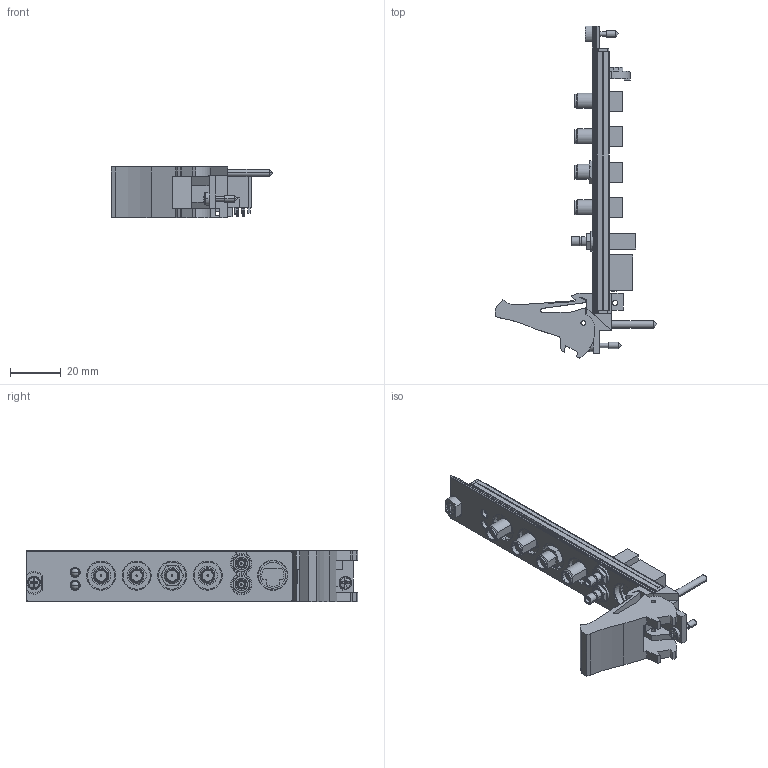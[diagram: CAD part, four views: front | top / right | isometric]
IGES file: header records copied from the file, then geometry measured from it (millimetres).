
Start section:  PTC IGES file: cu_pxie-5641r.igs
Global section: file name: cu_pxie-5641r.igs; native system: Pro/ENGINEER by Parametric Technology Corporation; preprocessor: 2006080; author: jjorden; organization: Unknown; date: 091231.122358; units: inch
Bounding box: 63.53 x 130.5 x 20.31 mm (x, y, z)
Surface area: 21634.8 mm2 (no closed solid volume)
Topology: 0 solids, 0 shells, 975 faces, 4986 edges, 4978 vertices
Faces by surface type: bspline 575, revolution 400
